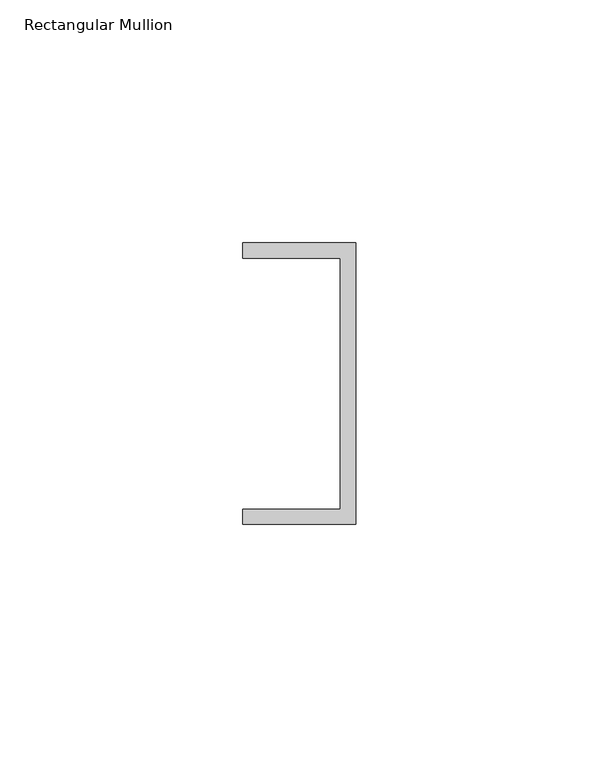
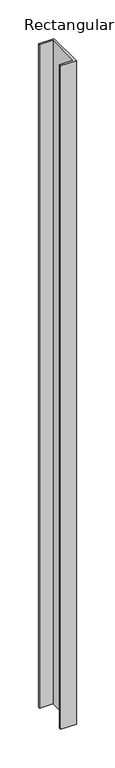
"""IFC4 building model written with IfcOpenShell, lengths in millimetres: member geometry, Rectangular Mullion : Frame-Teknion-Altos-Base_Channel."""

from ifc_helpers import new_model, si_unit, frame, origin, place, context, project, spatial, polyline, outline, extrude, source, transform, mapped, element, save


def rectangular_mullion_9c7541e2(model_context):
    return source(origin(), model_context, "Body", "SweptSolid", [
        extrude(outline(polyline([(0.0, 29.0214844), (0.0, -29.0214844), (-23.3164063, -29.0214844), (-23.3164063, -25.8464844), (-3.175, -25.8464844), (-3.175, 25.8464844), (-23.3164063, 25.8464844), (-23.3164063, 29.0214844), (0.0, 29.0214844)])), frame((0.0, 0.0, -1050.2304687), z_axis=(0.0, 0.0, 1.0), x_axis=(1.0, 0.0, 0.0)), (0.0, 0.0, 1.0), 1050.2304687),
    ])


if __name__ == "__main__":
    model = new_model("IFC4")
    model_context = context("Model", 3, world=origin())
    ifc_project = project(units=[si_unit("LENGTHUNIT", "METRE", prefix="MILLI")], contexts=[model_context])
    site = spatial("IfcSite", under=ifc_project)
    building = spatial("IfcBuilding", under=site)
    placement = place(None, origin())
    rectangular_mullion_shape = rectangular_mullion_9c7541e2(model_context)
    element("IfcMember", 1, ObjectType="Rectangular Mullion : Frame-Teknion-Altos-Base_Channel", at=placement, inside=building, context=model_context, shape_type="MappedRepresentation", body=[
        mapped(rectangular_mullion_shape, transform((0.0, 0.0, 0.0), x_axis=(1.0, 0.0, 0.0), y_axis=(0.0, 1.0, 0.0), z_axis=(0.0, 0.0, 1.0))),
    ])
    save(model, "model.ifc")
